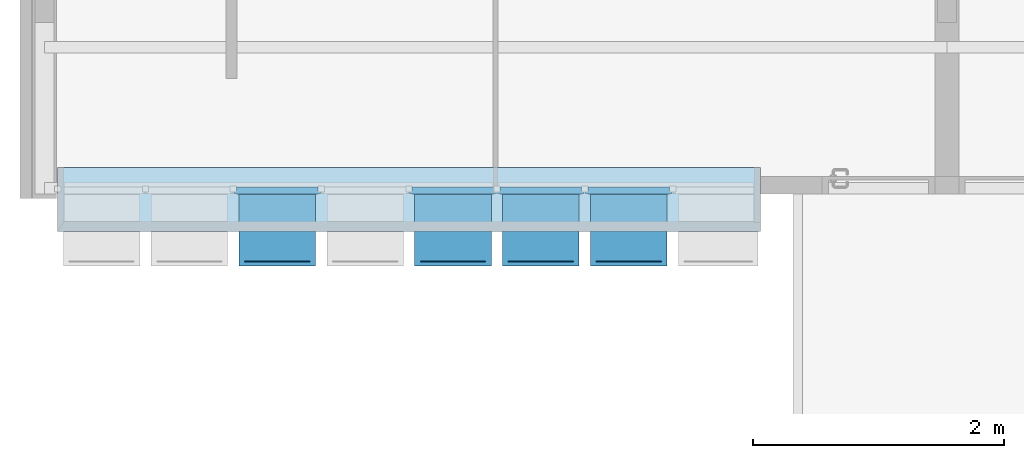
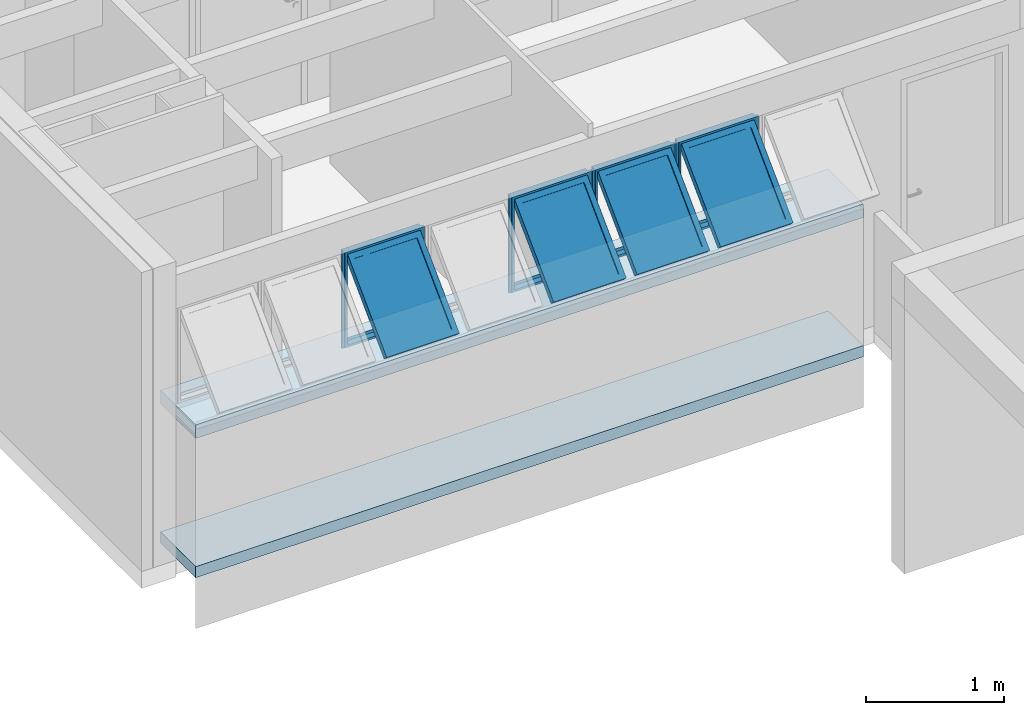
# One storey, part 11 of 40: 4 plates, 2 slabs, 1 element without a shape of its own.
"""IFC4 building model written with IfcOpenShell, lengths in millimetres."""

from ifc_helpers import new_model, entity, si_unit, converted_unit, derived_unit, direction, frame, origin_with_axes, place, context, subcontext, project, spatial, line, indexed_curve, outline, extrude, polygons, source, transform, mapped, material, layer, layer_set, layer_usage, constituent, constituent_set, type_object, element, aggregate, save


model = new_model("IFC4")

# Units and contexts
model_context = context("Model", 3, precision=0.01, world=origin_with_axes(), true_north=direction((0.0, 1.0)))
body_context = subcontext(model_context, "Body", "Model", "MODEL_VIEW")
ifc_project = project(units=[si_unit("LENGTHUNIT", "METRE", prefix="MILLI"), si_unit("AREAUNIT", "SQUARE_METRE"), si_unit("VOLUMEUNIT", "CUBIC_METRE"), converted_unit("PLANEANGLEUNIT", "DEGREE", entity("IfcPlaneAngleMeasure", 0.0174532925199), si_unit("PLANEANGLEUNIT", "RADIAN"), dimensions=[0, 0, 0, 0, 0, 0, 0]), converted_unit("TIMEUNIT", "Year", entity("IfcTimeMeasure", 31556926.0), si_unit("TIMEUNIT", "SECOND"), dimensions=[0, 0, 1, 0, 0, 0, 0]), si_unit("MASSUNIT", "GRAM", prefix="KILO"), si_unit("THERMODYNAMICTEMPERATUREUNIT", "DEGREE_CELSIUS"), si_unit("LUMINOUSINTENSITYUNIT", "LUMEN"), si_unit("ENERGYUNIT", "JOULE", prefix="MEGA"), derived_unit("THERMALCONDUCTANCEUNIT", [(si_unit("POWERUNIT", "WATT"), 1), (si_unit("LENGTHUNIT", "METRE"), -1), (si_unit("THERMODYNAMICTEMPERATUREUNIT", "KELVIN"), -1)]), derived_unit("SPECIFICHEATCAPACITYUNIT", [(si_unit("ENERGYUNIT", "JOULE"), 1), (si_unit("MASSUNIT", "GRAM", prefix="KILO"), -1), (si_unit("THERMODYNAMICTEMPERATUREUNIT", "KELVIN"), -1)]), derived_unit("MASSDENSITYUNIT", [(si_unit("MASSUNIT", "GRAM", prefix="KILO"), 1), (si_unit("VOLUMEUNIT", "CUBIC_METRE"), -1)])], contexts=[model_context])

# Site, building, storey
site_placement = place(None, origin_with_axes())
site = spatial("IfcSite", under=ifc_project, at=site_placement, Name="Local", CompositionType="ELEMENT")
building_placement = place(site_placement, origin_with_axes())
building = spatial("IfcBuilding", under=site, at=building_placement, Name="Construção", CompositionType="ELEMENT")
storey_placement = place(building_placement, frame((0.0, 0.0, 5300.0), z_axis=(0.0, 0.0, 1.0), x_axis=(1.0, 0.0, 0.0)))
storey = spatial("IfcBuildingStorey", under=building, at=storey_placement, Name="Terceiro Pavimento", CompositionType="ELEMENT", Elevation=5300.0)

# Slab
ifc_material_1 = material(Name="Concreto Armado Moldado in Loco - Estrutural")
ifc_layer_1 = layer(ifc_material_1, 120.0, ventilated="UNKNOWN", Name="Concreto Armado Moldado in Loco - Estrutural")
ifc_layer_set_1 = layer_set([ifc_layer_1], Name="Concreto Armado Moldado in Loco - Estrutural 120")
ifc_layer_usage_1 = layer_usage(ifc_layer_set_1, "AXIS3", "NEGATIVE", 120.0)
slab_type_1 = type_object("IfcSlabType", Name="Concreto Armado Moldado in Loco - Estrutural 120", PredefinedType="FLOOR")
slab_1_placement = place(storey_placement, frame((300.0, 17595.0000013, 1355.0), z_axis=(0.0, 0.0, 1.0), x_axis=(1.0, 0.0, 0.0)))
element("IfcSlab", 1, at=slab_1_placement, inside=storey, type_object=slab_type_1, material=ifc_layer_usage_1, Name="APTO11-LAJE-003", PredefinedType="FLOOR", context=body_context, shape_type="SweptSolid", body=[
    extrude(outline(indexed_curve([(0.0, 0.0), (5600.0, 0.0), (5600.0, 510.0), (0.0, 510.0)], segments=[line(1, 2, 3, 4, 1)])), frame((0.0, 0.0, -120.0), z_axis=(0.0, 0.0, 1.0), x_axis=(1.0, 0.0, 0.0)), (0.0, 0.0, 1.0), 120.0),
])

# Window, plates
window_type = type_object("IfcWindowType", Name="Tipo de Parede Cortina", PartitioningType="NOTDEFINED", PredefinedType="NOTDEFINED")
window_placement = place(storey_placement, frame((2750.0, 17910.0, 1355.00007107), z_axis=(0.0, 0.0, 1.0), x_axis=(1.0, 0.0, 0.0)))
window = element("IfcWindow", 2, at=window_placement, inside=storey, type_object=window_type, Name="APTO11-JANELA-000", PredefinedType="NOTDEFINED")
ifc_material_2 = material(Name="Alumínio")
ifc_constituent_1 = constituent(ifc_material_2, Name="Alumínio")
ifc_material_3 = material(Name="Vidro")
ifc_constituent_2 = constituent(ifc_material_3, Name="Vidro")
ifc_constituent_set_1 = constituent_set(constituents=[ifc_constituent_1, ifc_constituent_2])
plate_type = type_object("IfcPlateType", Name="Painel Principal 690 x 845 x 20", PredefinedType="CURTAIN_PANEL")
shared_shape_1 = source(origin_with_axes(), body_context, "Body", "Tessellation", [
    polygons([(25.0000036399, 0.0, -40.0), (674.999997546, 0.0, -40.0), (674.999997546, 0.0, -35.0), (25.0000036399, 0.0, -35.0), (70.0000036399, 45.0, -40.0), (629.999997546, 45.0, -40.0), (629.999997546, 45.0, -35.0), (70.0000036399, 45.0, -35.0)], [[[1, 2, 3, 4]], [[1, 5, 6, 2]], [[2, 6, 7, 3]], [[4, 3, 7, 8]], [[5, 1, 4, 8]], [[6, 5, 8, 7]]], closed=True),
    polygons([(674.999997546, 0.0, -40.0), (674.999997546, 844.999891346, -40.0), (674.999997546, 844.999891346, -35.0), (674.999997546, 0.0, -35.0), (629.999997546, 45.0, -40.0), (629.999997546, 799.999891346, -40.0), (629.999997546, 799.999891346, -35.0), (629.999997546, 45.0, -35.0)], [[[1, 2, 3, 4]], [[1, 5, 6, 2]], [[2, 6, 7, 3]], [[4, 3, 7, 8]], [[5, 1, 4, 8]], [[6, 5, 8, 7]]], closed=True),
    polygons([(25.0000036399, 844.999891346, -40.0), (70.0000036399, 799.999891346, -40.0), (70.0000036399, 799.999891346, -35.0), (25.0000036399, 844.999891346, -35.0), (674.999997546, 844.999891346, -40.0), (629.999997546, 799.999891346, -40.0), (629.999997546, 799.999891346, -35.0), (674.999997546, 844.999891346, -35.0)], [[[1, 2, 3, 4]], [[1, 5, 6, 2]], [[2, 6, 7, 3]], [[4, 3, 7, 8]], [[5, 1, 4, 8]], [[6, 5, 8, 7]]], closed=True),
    polygons([(25.0000036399, 0.0, -40.0), (70.0000036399, 45.0, -40.0), (70.0000036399, 45.0, -35.0), (25.0000036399, 0.0, -35.0), (25.0000036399, 844.999891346, -40.0), (70.0000036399, 799.999891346, -40.0), (70.0000036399, 799.999891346, -35.0), (25.0000036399, 844.999891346, -35.0)], [[[1, 2, 3, 4]], [[1, 5, 6, 2]], [[2, 6, 7, 3]], [[4, 3, 7, 8]], [[5, 1, 4, 8]], [[6, 5, 8, 7]]], closed=True),
    polygons([(25.0000036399, 0.0, -35.0), (674.999997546, 0.0, -35.0), (674.999997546, 0.0, 15.0), (25.0000036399, 0.0, 15.0), (45.0000036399, 20.0, -35.0), (654.999997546, 20.0, -35.0), (654.999997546, 20.0, 15.0), (45.0000036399, 20.0, 15.0)], [[[1, 2, 3, 4]], [[1, 5, 6, 2]], [[2, 6, 7, 3]], [[4, 3, 7, 8]], [[5, 1, 4, 8]], [[6, 5, 8, 7]]], closed=True),
    polygons([(674.999997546, 0.0, -35.0), (674.999997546, 844.999891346, -35.0), (674.999997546, 844.999891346, 15.0), (674.999997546, 0.0, 15.0), (654.999997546, 20.0, -35.0), (654.999997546, 824.999891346, -35.0), (654.999997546, 824.999891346, 15.0), (654.999997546, 20.0, 15.0)], [[[1, 2, 3, 4]], [[1, 5, 6, 2]], [[2, 6, 7, 3]], [[4, 3, 7, 8]], [[5, 1, 4, 8]], [[6, 5, 8, 7]]], closed=True),
    polygons([(25.0000036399, 844.999891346, -35.0), (45.0000036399, 824.999891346, -35.0), (45.0000036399, 824.999891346, 15.0), (25.0000036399, 844.999891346, 15.0), (674.999997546, 844.999891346, -35.0), (654.999997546, 824.999891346, -35.0), (654.999997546, 824.999891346, 15.0), (674.999997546, 844.999891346, 15.0)], [[[1, 2, 3, 4]], [[1, 5, 6, 2]], [[2, 6, 7, 3]], [[4, 3, 7, 8]], [[5, 1, 4, 8]], [[6, 5, 8, 7]]], closed=True),
    polygons([(25.0000036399, 0.0, -35.0), (45.0000036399, 20.0, -35.0), (45.0000036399, 20.0, 15.0), (25.0000036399, 0.0, 15.0), (25.0000036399, 844.999891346, -35.0), (45.0000036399, 824.999891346, -35.0), (45.0000036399, 824.999891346, 15.0), (25.0000036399, 844.999891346, 15.0)], [[[1, 2, 3, 4]], [[1, 5, 6, 2]], [[2, 6, 7, 3]], [[4, 3, 7, 8]], [[5, 1, 4, 8]], [[6, 5, 8, 7]]], closed=True),
    polygons([(694.999995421, 0.0, -10.0), (694.999995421, 844.999891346, -10.0), (694.999995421, 844.999891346, 10.0), (694.999995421, 0.0, 10.0), (674.999997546, 0.0, -10.0), (674.999997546, 844.999891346, -10.0), (674.999997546, 844.999891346, 10.0), (674.999997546, 0.0, 10.0)], [[[1, 2, 3, 4]], [[1, 5, 6, 2]], [[2, 6, 7, 3]], [[4, 3, 7, 8]], [[5, 1, 4, 8]], [[6, 5, 8, 7]]], closed=True),
    polygons([(5.00000576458, 844.999891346, -10.0), (5.00000576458, 0.0, -10.0), (5.00000576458, 0.0, 10.0), (5.00000576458, 844.999891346, 10.0), (25.0000036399, 844.999891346, -10.0), (25.0000036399, 0.0, -10.0), (25.0000036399, 0.0, 10.0), (25.0000036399, 844.999891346, 10.0)], [[[1, 2, 3, 4]], [[1, 5, 6, 2]], [[2, 6, 7, 3]], [[4, 3, 7, 8]], [[5, 1, 4, 8]], [[6, 5, 8, 7]]], closed=True),
    polygons([(90.0000036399, 252.243475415, 517.045737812), (90.0000036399, 757.824747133, 11.4644660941), (90.0000036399, 796.715620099, 50.3553390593), (90.0000036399, 291.13434838, 555.936610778), (45.0000036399, 220.423670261, 548.865542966), (45.0000036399, 789.644552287, -20.3553390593), (45.0000036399, 828.535425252, 18.5355339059), (45.0000036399, 259.314543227, 587.756415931)], [[[1, 2, 3, 4]], [[1, 5, 6, 2]], [[2, 6, 7, 3]], [[4, 3, 7, 8]], [[5, 1, 4, 8]], [[6, 5, 8, 7]]], closed=True),
    polygons([(654.999997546, 220.423670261, 548.865542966), (654.999997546, 789.644552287, -20.3553390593), (654.999997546, 828.535425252, 18.5355339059), (654.999997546, 259.314543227, 587.756415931), (609.999997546, 252.243475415, 517.045737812), (609.999997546, 757.824747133, 11.4644660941), (609.999997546, 796.715620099, 50.3553390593), (609.999997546, 291.13434838, 555.936610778)], [[[1, 2, 3, 4]], [[1, 5, 6, 2]], [[2, 6, 7, 3]], [[4, 3, 7, 8]], [[5, 1, 4, 8]], [[6, 5, 8, 7]]], closed=True),
    polygons([(654.999997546, 220.423670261, 548.865542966), (609.999997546, 252.243475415, 517.045737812), (609.999997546, 291.13434838, 555.936610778), (654.999997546, 259.314543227, 587.756415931), (45.0000036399, 220.423670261, 548.865542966), (90.0000036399, 252.243475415, 517.045737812), (90.0000036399, 291.13434838, 555.936610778), (45.0000036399, 259.314543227, 587.756415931)], [[[1, 2, 3, 4]], [[1, 5, 6, 2]], [[2, 6, 7, 3]], [[4, 3, 7, 8]], [[5, 1, 4, 8]], [[6, 5, 8, 7]]], closed=True),
    polygons([(45.0000036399, 789.644552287, -20.3553390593), (90.0000036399, 757.824747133, 11.4644660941), (90.0000036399, 796.715620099, 50.3553390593), (45.0000036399, 828.535425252, 18.5355339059), (654.999997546, 789.644552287, -20.3553390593), (609.999997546, 757.824747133, 11.4644660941), (609.999997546, 796.715620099, 50.3553390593), (654.999997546, 828.535425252, 18.5355339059)], [[[1, 2, 3, 4]], [[1, 5, 6, 2]], [[2, 6, 7, 3]], [[4, 3, 7, 8]], [[5, 1, 4, 8]], [[6, 5, 8, 7]]], closed=True),
    polygons([(90.0000036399, 272.749572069, 537.551834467), (609.999997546, 272.749572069, 537.551834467), (609.999997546, 284.063280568, 548.865542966), (90.0000036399, 284.063280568, 548.865542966), (90.0000036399, 778.330843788, 31.9705627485), (609.999997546, 778.330843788, 31.9705627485), (609.999997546, 789.644552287, 43.2842712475), (90.0000036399, 789.644552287, 43.2842712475)], [[[1, 2, 3, 4]], [[1, 5, 6, 2]], [[2, 6, 7, 3]], [[4, 3, 7, 8]], [[5, 1, 4, 8]], [[6, 5, 8, 7]]], closed=True),
])
plate_1_placement = place(window_placement, frame((2100.0, 0.0, 422.499964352), z_axis=(0.0, 0.0, 1.0), x_axis=(-1.0, 0.0, 0.0)))
plate_1 = element("IfcPlate", 3, at=plate_1_placement, type_object=plate_type, material=ifc_constituent_set_1, Name="APTO11-Painel-Prin-029", PredefinedType="CURTAIN_PANEL", context=body_context, shape_type="MappedRepresentation", body=[
    mapped(shared_shape_1, transform((350.0, 0.0, -422.499964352), x_axis=(-1.0, 0.0, 0.0), y_axis=(0.0, 0.0, 1.0), z_axis=(0.0, 1.0, 0.0))),
])
ifc_constituent_3 = constituent(ifc_material_2, Name="Alumínio")
ifc_constituent_4 = constituent(ifc_material_3, Name="Vidro")
ifc_constituent_set_2 = constituent_set(constituents=[ifc_constituent_3, ifc_constituent_4])
shared_shape_2 = source(origin_with_axes(), body_context, "Body", "Tessellation", [
    polygons([(25.0000036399, 0.0, -40.0), (674.999997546, 0.0, -40.0), (674.999997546, 0.0, -35.0), (25.0000036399, 0.0, -35.0), (70.0000036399, 45.0, -40.0), (629.999997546, 45.0, -40.0), (629.999997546, 45.0, -35.0), (70.0000036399, 45.0, -35.0)], [[[1, 2, 3, 4]], [[1, 5, 6, 2]], [[2, 6, 7, 3]], [[4, 3, 7, 8]], [[5, 1, 4, 8]], [[6, 5, 8, 7]]], closed=True),
    polygons([(674.999997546, 0.0, -40.0), (674.999997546, 844.999891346, -40.0), (674.999997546, 844.999891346, -35.0), (674.999997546, 0.0, -35.0), (629.999997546, 45.0, -40.0), (629.999997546, 799.999891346, -40.0), (629.999997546, 799.999891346, -35.0), (629.999997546, 45.0, -35.0)], [[[1, 2, 3, 4]], [[1, 5, 6, 2]], [[2, 6, 7, 3]], [[4, 3, 7, 8]], [[5, 1, 4, 8]], [[6, 5, 8, 7]]], closed=True),
    polygons([(25.0000036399, 844.999891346, -40.0), (70.0000036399, 799.999891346, -40.0), (70.0000036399, 799.999891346, -35.0), (25.0000036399, 844.999891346, -35.0), (674.999997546, 844.999891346, -40.0), (629.999997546, 799.999891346, -40.0), (629.999997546, 799.999891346, -35.0), (674.999997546, 844.999891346, -35.0)], [[[1, 2, 3, 4]], [[1, 5, 6, 2]], [[2, 6, 7, 3]], [[4, 3, 7, 8]], [[5, 1, 4, 8]], [[6, 5, 8, 7]]], closed=True),
    polygons([(25.0000036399, 0.0, -40.0), (70.0000036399, 45.0, -40.0), (70.0000036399, 45.0, -35.0), (25.0000036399, 0.0, -35.0), (25.0000036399, 844.999891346, -40.0), (70.0000036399, 799.999891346, -40.0), (70.0000036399, 799.999891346, -35.0), (25.0000036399, 844.999891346, -35.0)], [[[1, 2, 3, 4]], [[1, 5, 6, 2]], [[2, 6, 7, 3]], [[4, 3, 7, 8]], [[5, 1, 4, 8]], [[6, 5, 8, 7]]], closed=True),
    polygons([(25.0000036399, 0.0, -35.0), (674.999997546, 0.0, -35.0), (674.999997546, 0.0, 15.0), (25.0000036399, 0.0, 15.0), (45.0000036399, 20.0, -35.0), (654.999997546, 20.0, -35.0), (654.999997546, 20.0, 15.0), (45.0000036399, 20.0, 15.0)], [[[1, 2, 3, 4]], [[1, 5, 6, 2]], [[2, 6, 7, 3]], [[4, 3, 7, 8]], [[5, 1, 4, 8]], [[6, 5, 8, 7]]], closed=True),
    polygons([(674.999997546, 0.0, -35.0), (674.999997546, 844.999891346, -35.0), (674.999997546, 844.999891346, 15.0), (674.999997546, 0.0, 15.0), (654.999997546, 20.0, -35.0), (654.999997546, 824.999891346, -35.0), (654.999997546, 824.999891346, 15.0), (654.999997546, 20.0, 15.0)], [[[1, 2, 3, 4]], [[1, 5, 6, 2]], [[2, 6, 7, 3]], [[4, 3, 7, 8]], [[5, 1, 4, 8]], [[6, 5, 8, 7]]], closed=True),
    polygons([(25.0000036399, 844.999891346, -35.0), (45.0000036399, 824.999891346, -35.0), (45.0000036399, 824.999891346, 15.0), (25.0000036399, 844.999891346, 15.0), (674.999997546, 844.999891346, -35.0), (654.999997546, 824.999891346, -35.0), (654.999997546, 824.999891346, 15.0), (674.999997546, 844.999891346, 15.0)], [[[1, 2, 3, 4]], [[1, 5, 6, 2]], [[2, 6, 7, 3]], [[4, 3, 7, 8]], [[5, 1, 4, 8]], [[6, 5, 8, 7]]], closed=True),
    polygons([(25.0000036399, 0.0, -35.0), (45.0000036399, 20.0, -35.0), (45.0000036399, 20.0, 15.0), (25.0000036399, 0.0, 15.0), (25.0000036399, 844.999891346, -35.0), (45.0000036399, 824.999891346, -35.0), (45.0000036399, 824.999891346, 15.0), (25.0000036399, 844.999891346, 15.0)], [[[1, 2, 3, 4]], [[1, 5, 6, 2]], [[2, 6, 7, 3]], [[4, 3, 7, 8]], [[5, 1, 4, 8]], [[6, 5, 8, 7]]], closed=True),
    polygons([(694.999995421, 0.0, -10.0), (694.999995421, 844.999891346, -10.0), (694.999995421, 844.999891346, 10.0), (694.999995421, 0.0, 10.0), (674.999997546, 0.0, -10.0), (674.999997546, 844.999891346, -10.0), (674.999997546, 844.999891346, 10.0), (674.999997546, 0.0, 10.0)], [[[1, 2, 3, 4]], [[1, 5, 6, 2]], [[2, 6, 7, 3]], [[4, 3, 7, 8]], [[5, 1, 4, 8]], [[6, 5, 8, 7]]], closed=True),
    polygons([(5.00000576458, 844.999891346, -10.0), (5.00000576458, 0.0, -10.0), (5.00000576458, 0.0, 10.0), (5.00000576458, 844.999891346, 10.0), (25.0000036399, 844.999891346, -10.0), (25.0000036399, 0.0, -10.0), (25.0000036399, 0.0, 10.0), (25.0000036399, 844.999891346, 10.0)], [[[1, 2, 3, 4]], [[1, 5, 6, 2]], [[2, 6, 7, 3]], [[4, 3, 7, 8]], [[5, 1, 4, 8]], [[6, 5, 8, 7]]], closed=True),
    polygons([(90.0000036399, 252.243475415, 517.045737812), (90.0000036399, 757.824747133, 11.4644660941), (90.0000036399, 796.715620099, 50.3553390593), (90.0000036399, 291.13434838, 555.936610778), (45.0000036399, 220.423670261, 548.865542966), (45.0000036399, 789.644552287, -20.3553390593), (45.0000036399, 828.535425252, 18.5355339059), (45.0000036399, 259.314543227, 587.756415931)], [[[1, 2, 3, 4]], [[1, 5, 6, 2]], [[2, 6, 7, 3]], [[4, 3, 7, 8]], [[5, 1, 4, 8]], [[6, 5, 8, 7]]], closed=True),
    polygons([(654.999997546, 220.423670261, 548.865542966), (654.999997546, 789.644552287, -20.3553390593), (654.999997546, 828.535425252, 18.5355339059), (654.999997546, 259.314543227, 587.756415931), (609.999997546, 252.243475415, 517.045737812), (609.999997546, 757.824747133, 11.4644660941), (609.999997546, 796.715620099, 50.3553390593), (609.999997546, 291.13434838, 555.936610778)], [[[1, 2, 3, 4]], [[1, 5, 6, 2]], [[2, 6, 7, 3]], [[4, 3, 7, 8]], [[5, 1, 4, 8]], [[6, 5, 8, 7]]], closed=True),
    polygons([(654.999997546, 220.423670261, 548.865542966), (609.999997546, 252.243475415, 517.045737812), (609.999997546, 291.13434838, 555.936610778), (654.999997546, 259.314543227, 587.756415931), (45.0000036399, 220.423670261, 548.865542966), (90.0000036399, 252.243475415, 517.045737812), (90.0000036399, 291.13434838, 555.936610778), (45.0000036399, 259.314543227, 587.756415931)], [[[1, 2, 3, 4]], [[1, 5, 6, 2]], [[2, 6, 7, 3]], [[4, 3, 7, 8]], [[5, 1, 4, 8]], [[6, 5, 8, 7]]], closed=True),
    polygons([(45.0000036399, 789.644552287, -20.3553390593), (90.0000036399, 757.824747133, 11.4644660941), (90.0000036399, 796.715620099, 50.3553390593), (45.0000036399, 828.535425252, 18.5355339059), (654.999997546, 789.644552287, -20.3553390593), (609.999997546, 757.824747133, 11.4644660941), (609.999997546, 796.715620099, 50.3553390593), (654.999997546, 828.535425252, 18.5355339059)], [[[1, 2, 3, 4]], [[1, 5, 6, 2]], [[2, 6, 7, 3]], [[4, 3, 7, 8]], [[5, 1, 4, 8]], [[6, 5, 8, 7]]], closed=True),
    polygons([(90.0000036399, 272.749572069, 537.551834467), (609.999997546, 272.749572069, 537.551834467), (609.999997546, 284.063280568, 548.865542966), (90.0000036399, 284.063280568, 548.865542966), (90.0000036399, 778.330843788, 31.9705627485), (609.999997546, 778.330843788, 31.9705627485), (609.999997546, 789.644552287, 43.2842712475), (90.0000036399, 789.644552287, 43.2842712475)], [[[1, 2, 3, 4]], [[1, 5, 6, 2]], [[2, 6, 7, 3]], [[4, 3, 7, 8]], [[5, 1, 4, 8]], [[6, 5, 8, 7]]], closed=True),
])
plate_2_placement = place(window_placement, frame((1400.0, 0.0, 422.499964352), z_axis=(0.0, 0.0, 1.0), x_axis=(-1.0, 0.0, 0.0)))
plate_2 = element("IfcPlate", 4, at=plate_2_placement, type_object=plate_type, material=ifc_constituent_set_2, Name="APTO11-Painel-Prin-025", PredefinedType="CURTAIN_PANEL", context=body_context, shape_type="MappedRepresentation", body=[
    mapped(shared_shape_2, transform((350.0, 0.0, -422.499964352), x_axis=(-1.0, 0.0, 0.0), y_axis=(0.0, 0.0, 1.0), z_axis=(0.0, 1.0, 0.0))),
])
ifc_constituent_5 = constituent(ifc_material_2, Name="Alumínio")
ifc_constituent_6 = constituent(ifc_material_3, Name="Vidro")
ifc_constituent_set_3 = constituent_set(constituents=[ifc_constituent_5, ifc_constituent_6])
shared_shape_3 = source(origin_with_axes(), body_context, "Body", "Tessellation", [
    polygons([(25.0000036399, 0.0, -40.0), (674.999997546, 0.0, -40.0), (674.999997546, 0.0, -35.0), (25.0000036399, 0.0, -35.0), (70.0000036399, 45.0, -40.0), (629.999997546, 45.0, -40.0), (629.999997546, 45.0, -35.0), (70.0000036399, 45.0, -35.0)], [[[1, 2, 3, 4]], [[1, 5, 6, 2]], [[2, 6, 7, 3]], [[4, 3, 7, 8]], [[5, 1, 4, 8]], [[6, 5, 8, 7]]], closed=True),
    polygons([(674.999997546, 0.0, -40.0), (674.999997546, 844.999891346, -40.0), (674.999997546, 844.999891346, -35.0), (674.999997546, 0.0, -35.0), (629.999997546, 45.0, -40.0), (629.999997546, 799.999891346, -40.0), (629.999997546, 799.999891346, -35.0), (629.999997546, 45.0, -35.0)], [[[1, 2, 3, 4]], [[1, 5, 6, 2]], [[2, 6, 7, 3]], [[4, 3, 7, 8]], [[5, 1, 4, 8]], [[6, 5, 8, 7]]], closed=True),
    polygons([(25.0000036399, 844.999891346, -40.0), (70.0000036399, 799.999891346, -40.0), (70.0000036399, 799.999891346, -35.0), (25.0000036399, 844.999891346, -35.0), (674.999997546, 844.999891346, -40.0), (629.999997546, 799.999891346, -40.0), (629.999997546, 799.999891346, -35.0), (674.999997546, 844.999891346, -35.0)], [[[1, 2, 3, 4]], [[1, 5, 6, 2]], [[2, 6, 7, 3]], [[4, 3, 7, 8]], [[5, 1, 4, 8]], [[6, 5, 8, 7]]], closed=True),
    polygons([(25.0000036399, 0.0, -40.0), (70.0000036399, 45.0, -40.0), (70.0000036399, 45.0, -35.0), (25.0000036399, 0.0, -35.0), (25.0000036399, 844.999891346, -40.0), (70.0000036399, 799.999891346, -40.0), (70.0000036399, 799.999891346, -35.0), (25.0000036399, 844.999891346, -35.0)], [[[1, 2, 3, 4]], [[1, 5, 6, 2]], [[2, 6, 7, 3]], [[4, 3, 7, 8]], [[5, 1, 4, 8]], [[6, 5, 8, 7]]], closed=True),
    polygons([(25.0000036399, 0.0, -35.0), (674.999997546, 0.0, -35.0), (674.999997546, 0.0, 15.0), (25.0000036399, 0.0, 15.0), (45.0000036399, 20.0, -35.0), (654.999997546, 20.0, -35.0), (654.999997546, 20.0, 15.0), (45.0000036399, 20.0, 15.0)], [[[1, 2, 3, 4]], [[1, 5, 6, 2]], [[2, 6, 7, 3]], [[4, 3, 7, 8]], [[5, 1, 4, 8]], [[6, 5, 8, 7]]], closed=True),
    polygons([(674.999997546, 0.0, -35.0), (674.999997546, 844.999891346, -35.0), (674.999997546, 844.999891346, 15.0), (674.999997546, 0.0, 15.0), (654.999997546, 20.0, -35.0), (654.999997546, 824.999891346, -35.0), (654.999997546, 824.999891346, 15.0), (654.999997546, 20.0, 15.0)], [[[1, 2, 3, 4]], [[1, 5, 6, 2]], [[2, 6, 7, 3]], [[4, 3, 7, 8]], [[5, 1, 4, 8]], [[6, 5, 8, 7]]], closed=True),
    polygons([(25.0000036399, 844.999891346, -35.0), (45.0000036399, 824.999891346, -35.0), (45.0000036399, 824.999891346, 15.0), (25.0000036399, 844.999891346, 15.0), (674.999997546, 844.999891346, -35.0), (654.999997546, 824.999891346, -35.0), (654.999997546, 824.999891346, 15.0), (674.999997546, 844.999891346, 15.0)], [[[1, 2, 3, 4]], [[1, 5, 6, 2]], [[2, 6, 7, 3]], [[4, 3, 7, 8]], [[5, 1, 4, 8]], [[6, 5, 8, 7]]], closed=True),
    polygons([(25.0000036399, 0.0, -35.0), (45.0000036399, 20.0, -35.0), (45.0000036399, 20.0, 15.0), (25.0000036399, 0.0, 15.0), (25.0000036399, 844.999891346, -35.0), (45.0000036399, 824.999891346, -35.0), (45.0000036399, 824.999891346, 15.0), (25.0000036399, 844.999891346, 15.0)], [[[1, 2, 3, 4]], [[1, 5, 6, 2]], [[2, 6, 7, 3]], [[4, 3, 7, 8]], [[5, 1, 4, 8]], [[6, 5, 8, 7]]], closed=True),
    polygons([(694.999995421, 0.0, -10.0), (694.999995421, 844.999891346, -10.0), (694.999995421, 844.999891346, 10.0), (694.999995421, 0.0, 10.0), (674.999997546, 0.0, -10.0), (674.999997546, 844.999891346, -10.0), (674.999997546, 844.999891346, 10.0), (674.999997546, 0.0, 10.0)], [[[1, 2, 3, 4]], [[1, 5, 6, 2]], [[2, 6, 7, 3]], [[4, 3, 7, 8]], [[5, 1, 4, 8]], [[6, 5, 8, 7]]], closed=True),
    polygons([(5.00000576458, 844.999891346, -10.0), (5.00000576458, 0.0, -10.0), (5.00000576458, 0.0, 10.0), (5.00000576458, 844.999891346, 10.0), (25.0000036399, 844.999891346, -10.0), (25.0000036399, 0.0, -10.0), (25.0000036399, 0.0, 10.0), (25.0000036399, 844.999891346, 10.0)], [[[1, 2, 3, 4]], [[1, 5, 6, 2]], [[2, 6, 7, 3]], [[4, 3, 7, 8]], [[5, 1, 4, 8]], [[6, 5, 8, 7]]], closed=True),
    polygons([(90.0000036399, 252.243475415, 517.045737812), (90.0000036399, 757.824747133, 11.4644660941), (90.0000036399, 796.715620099, 50.3553390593), (90.0000036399, 291.13434838, 555.936610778), (45.0000036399, 220.423670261, 548.865542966), (45.0000036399, 789.644552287, -20.3553390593), (45.0000036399, 828.535425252, 18.5355339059), (45.0000036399, 259.314543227, 587.756415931)], [[[1, 2, 3, 4]], [[1, 5, 6, 2]], [[2, 6, 7, 3]], [[4, 3, 7, 8]], [[5, 1, 4, 8]], [[6, 5, 8, 7]]], closed=True),
    polygons([(654.999997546, 220.423670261, 548.865542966), (654.999997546, 789.644552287, -20.3553390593), (654.999997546, 828.535425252, 18.5355339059), (654.999997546, 259.314543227, 587.756415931), (609.999997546, 252.243475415, 517.045737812), (609.999997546, 757.824747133, 11.4644660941), (609.999997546, 796.715620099, 50.3553390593), (609.999997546, 291.13434838, 555.936610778)], [[[1, 2, 3, 4]], [[1, 5, 6, 2]], [[2, 6, 7, 3]], [[4, 3, 7, 8]], [[5, 1, 4, 8]], [[6, 5, 8, 7]]], closed=True),
    polygons([(654.999997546, 220.423670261, 548.865542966), (609.999997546, 252.243475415, 517.045737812), (609.999997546, 291.13434838, 555.936610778), (654.999997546, 259.314543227, 587.756415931), (45.0000036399, 220.423670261, 548.865542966), (90.0000036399, 252.243475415, 517.045737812), (90.0000036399, 291.13434838, 555.936610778), (45.0000036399, 259.314543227, 587.756415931)], [[[1, 2, 3, 4]], [[1, 5, 6, 2]], [[2, 6, 7, 3]], [[4, 3, 7, 8]], [[5, 1, 4, 8]], [[6, 5, 8, 7]]], closed=True),
    polygons([(45.0000036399, 789.644552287, -20.3553390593), (90.0000036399, 757.824747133, 11.4644660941), (90.0000036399, 796.715620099, 50.3553390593), (45.0000036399, 828.535425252, 18.5355339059), (654.999997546, 789.644552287, -20.3553390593), (609.999997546, 757.824747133, 11.4644660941), (609.999997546, 796.715620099, 50.3553390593), (654.999997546, 828.535425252, 18.5355339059)], [[[1, 2, 3, 4]], [[1, 5, 6, 2]], [[2, 6, 7, 3]], [[4, 3, 7, 8]], [[5, 1, 4, 8]], [[6, 5, 8, 7]]], closed=True),
    polygons([(90.0000036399, 272.749572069, 537.551834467), (609.999997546, 272.749572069, 537.551834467), (609.999997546, 284.063280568, 548.865542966), (90.0000036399, 284.063280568, 548.865542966), (90.0000036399, 778.330843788, 31.9705627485), (609.999997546, 778.330843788, 31.9705627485), (609.999997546, 789.644552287, 43.2842712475), (90.0000036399, 789.644552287, 43.2842712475)], [[[1, 2, 3, 4]], [[1, 5, 6, 2]], [[2, 6, 7, 3]], [[4, 3, 7, 8]], [[5, 1, 4, 8]], [[6, 5, 8, 7]]], closed=True),
])
plate_3_placement = place(window_placement, frame((700.0, 0.0, 422.499964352), z_axis=(0.0, 0.0, 1.0), x_axis=(-1.0, 0.0, 0.0)))
plate_3 = element("IfcPlate", 5, at=plate_3_placement, type_object=plate_type, material=ifc_constituent_set_3, Name="APTO11-Painel-Prin-013", PredefinedType="CURTAIN_PANEL", context=body_context, shape_type="MappedRepresentation", body=[
    mapped(shared_shape_3, transform((350.0, 0.0, -422.499964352), x_axis=(-1.0, 0.0, 0.0), y_axis=(0.0, 0.0, 1.0), z_axis=(0.0, 1.0, 0.0))),
])
ifc_constituent_7 = constituent(ifc_material_2, Name="Alumínio")
ifc_constituent_8 = constituent(ifc_material_3, Name="Vidro")
ifc_constituent_set_4 = constituent_set(constituents=[ifc_constituent_7, ifc_constituent_8])
plate_4_placement = place(window_placement, frame((-700.0, 0.0, 422.499964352), z_axis=(0.0, 0.0, 1.0), x_axis=(-1.0, 0.0, 0.0)))
plate_4 = element("IfcPlate", 6, at=plate_4_placement, type_object=plate_type, material=ifc_constituent_set_4, Name="APTO11-Painel-Prin-013", PredefinedType="CURTAIN_PANEL", context=body_context, shape_type="MappedRepresentation", body=[
    mapped(shared_shape_3, transform((350.0, 0.0, -422.499964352), x_axis=(-1.0, 0.0, 0.0), y_axis=(0.0, 0.0, 1.0), z_axis=(0.0, 1.0, 0.0))),
])
aggregate(window, [plate_1, plate_3, plate_2, plate_4])

# Slab
ifc_layer_2 = layer(ifc_material_1, 100.0, ventilated="UNKNOWN", Name="Concreto Armado Moldado in Loco - Estrutural")
ifc_layer_set_2 = layer_set([ifc_layer_2], Name="Concreto Armado Moldado in Loco - Estrutural 100")
ifc_layer_usage_2 = layer_usage(ifc_layer_set_2, "AXIS3", "NEGATIVE", 100.0)
slab_type_2 = type_object("IfcSlabType", Name="Concreto Armado Moldado in Loco - Estrutural 100", PredefinedType="FLOOR")
slab_2_placement = place(storey_placement, frame((300.0, 17595.0000013, 100.0), z_axis=(0.0, 0.0, 1.0), x_axis=(1.0, 0.0, 0.0)))
element("IfcSlab", 7, at=slab_2_placement, inside=storey, type_object=slab_type_2, material=ifc_layer_usage_2, Name="APTO11-LAJE-004", PredefinedType="FLOOR", context=body_context, shape_type="SweptSolid", body=[
    extrude(outline(indexed_curve([(0.0, 0.0), (5600.0, 0.0), (5600.0, 510.0), (0.0, 510.0)], segments=[line(1, 2, 3, 4, 1)])), frame((0.0, 0.0, -100.0), z_axis=(0.0, 0.0, 1.0), x_axis=(1.0, 0.0, 0.0)), (0.0, 0.0, 1.0), 100.0),
])

save(model, "model.ifc")
